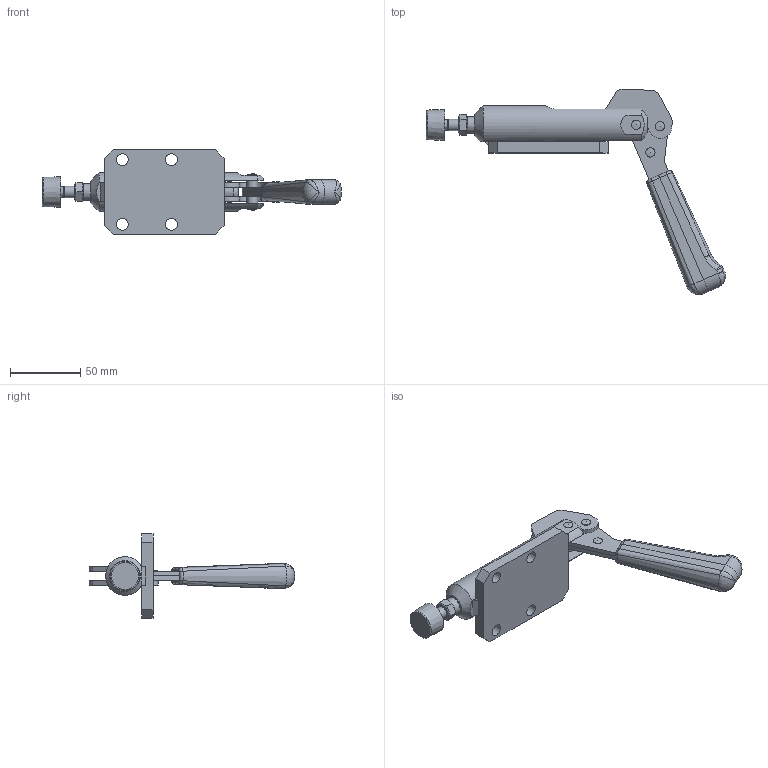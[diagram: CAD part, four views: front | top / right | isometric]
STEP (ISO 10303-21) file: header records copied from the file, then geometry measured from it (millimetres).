
FILE_DESCRIPTION(/* description */ (''),/* implementation_level */ '2;1');
FILE_NAME(/* name */ '/Users/eric/Desktop/Abco 2044 Pull:Tirée.stp',/* time_stamp */ '2014-08-15T01:54:41+10:00',/* author */ (''),/* organization */ (''),/* preprocessor_version */ 'ST-DEVELOPER v14.6',/* originating_system */ '',/* authorisation */ '');
FILE_SCHEMA (('AUTOMOTIVE_DESIGN { 1 2 10303 214 1 1 1 1 }'));
Length unit declared in the file: centimetre
Products named in the file (1): 1234-K789
Bounding box: 212.93 x 146.14 x 60 mm (x, y, z)
Volume: 133847.4 mm3; surface area: 67006.4 mm2
Topology: 25 solids, 25 shells, 280 faces, 652 edges, 412 vertices
Faces by surface type: plane 119, cylinder 84, cone 36, bspline 24, sphere 9, torus 8
Full cylindrical faces by diameter (mm): 6 x22, 6.647 x2, 7.323 x1, 8 x12, 8.5 x4, 11.4 x2, 12 x4
Entity records: 8190 total; most frequent: CARTESIAN_POINT 2357, DIRECTION 1177, ORIENTED_EDGE 1088, EDGE_CURVE 544, AXIS2_PLACEMENT_3D 485, EDGE_LOOP 410, VERTEX_POINT 388, ADVANCED_FACE 280
